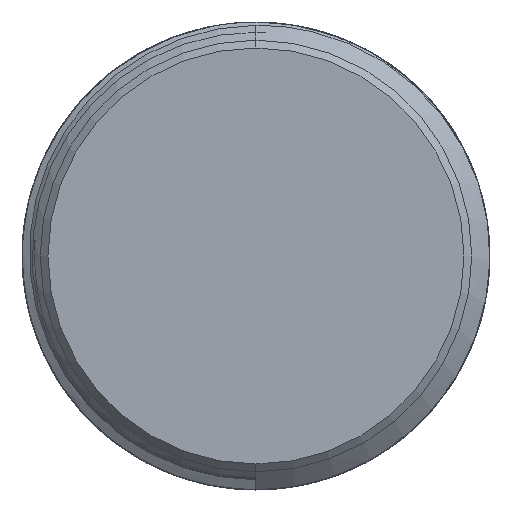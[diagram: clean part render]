
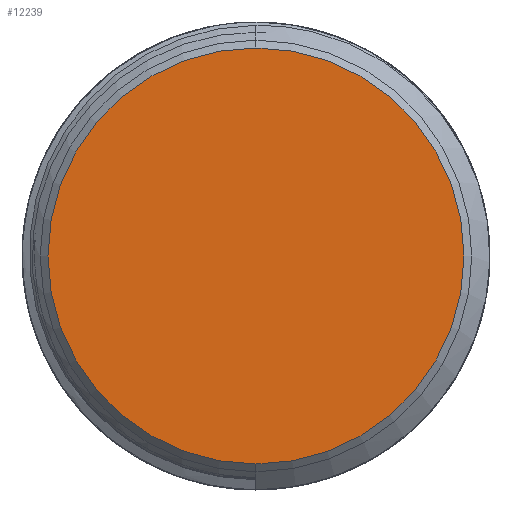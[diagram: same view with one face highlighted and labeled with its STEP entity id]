
A CAD part, left-side view. The second image highlights one B-rep face of the part: STEP entity #12239.
In plain terms, the highlighted planar face has unit normal (-1, 0, 0).
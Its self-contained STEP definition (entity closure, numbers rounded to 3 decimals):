
#4836=CARTESIAN_POINT('',(-10.,0.,0.));
#4837=DIRECTION('',(-1.,0.,0.));
#4838=DIRECTION('',(0.,0.,1.));
#4839=AXIS2_PLACEMENT_3D('',#4836,#4837,#4838);
#4841=CARTESIAN_POINT('',(-10.,0.,0.));
#4842=DIRECTION('',(-1.,0.,0.));
#4843=DIRECTION('',(0.,0.,-1.));
#4844=AXIS2_PLACEMENT_3D('',#4841,#4842,#4843);
#9182=CARTESIAN_POINT('',(-10.,0.,8.));
#9183=CARTESIAN_POINT('',(-10.,0.,-8.));
#9184=VERTEX_POINT('',#9182);
#9185=VERTEX_POINT('',#9183);
#12229=CARTESIAN_POINT('',(-10.,0.,0.));
#12230=DIRECTION('',(1.,0.,0.));
#12231=DIRECTION('',(0.,0.,1.));
#12232=AXIS2_PLACEMENT_3D('',#12229,#12230,#12231);
#12233=PLANE('',#12232);
#12235=ORIENTED_EDGE('',*,*,#12234,.F.);
#12236=ORIENTED_EDGE('',*,*,#12219,.F.);
#12237=EDGE_LOOP('',(#12235,#12236));
#12238=FACE_OUTER_BOUND('',#12237,.F.);
#12239=ADVANCED_FACE('',(#12238),#12233,.F.);
#4840=CIRCLE('',#4839,8.);
#4845=CIRCLE('',#4844,8.);
#12219=EDGE_CURVE('',#9185,#9184,#4845,.T.);
#12234=EDGE_CURVE('',#9184,#9185,#4840,.T.);
